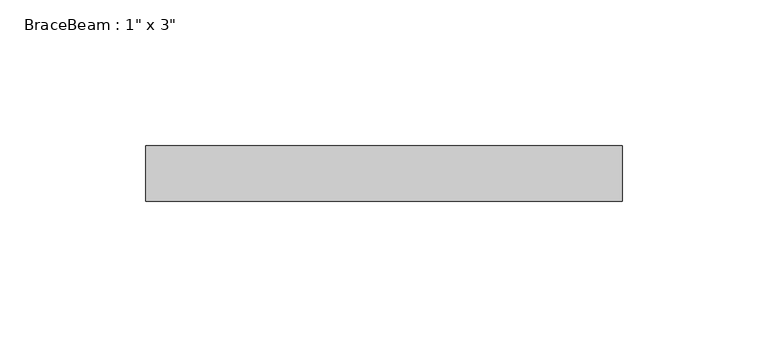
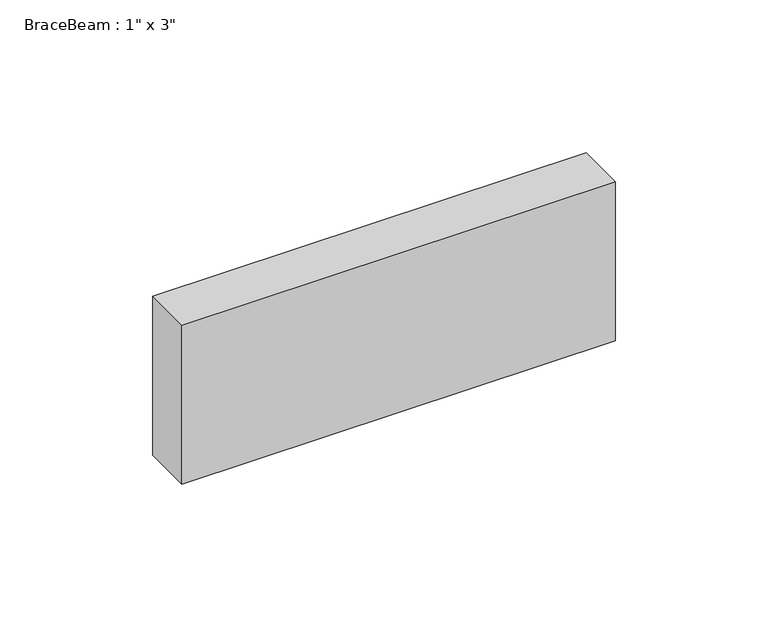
"""IFC4 building model written with IfcOpenShell, lengths in millimetres: beam geometry."""

from ifc_helpers import new_model, si_unit, frame, origin, place, context, project, spatial, polyline, outline, extrude, source, transform, mapped, element, save


def beam_ecc59796(model_context):
    return source(origin(), model_context, "Body", "SweptSolid", [
        extrude(outline(polyline([(-77.1525, -9.525), (-77.1525, 9.525), (86.6775, 9.525), (86.6775, -9.525), (-77.1525, -9.525)])), frame((0.0, 0.0, -31.75), z_axis=(0.0, 0.0, 1.0), x_axis=(1.0, 0.0, 0.0)), (0.0, 0.0, 1.0), 63.5),
    ])


if __name__ == "__main__":
    model = new_model("IFC4")
    model_context = context("Model", 3, world=origin())
    ifc_project = project(units=[si_unit("LENGTHUNIT", "METRE", prefix="MILLI")], contexts=[model_context])
    site = spatial("IfcSite", under=ifc_project)
    building = spatial("IfcBuilding", under=site)
    placement = place(None, origin())
    beam_shape = beam_ecc59796(model_context)
    element("IfcBeam", 1, ObjectType="BraceBeam : 1\" x 3\"", at=placement, inside=building, context=model_context, shape_type="MappedRepresentation", body=[
        mapped(beam_shape, transform((0.0, 0.0, 0.0), x_axis=(1.0, 0.0, 0.0), y_axis=(0.0, 1.0, 0.0), z_axis=(0.0, 0.0, 1.0))),
    ])
    save(model, "model.ifc")
